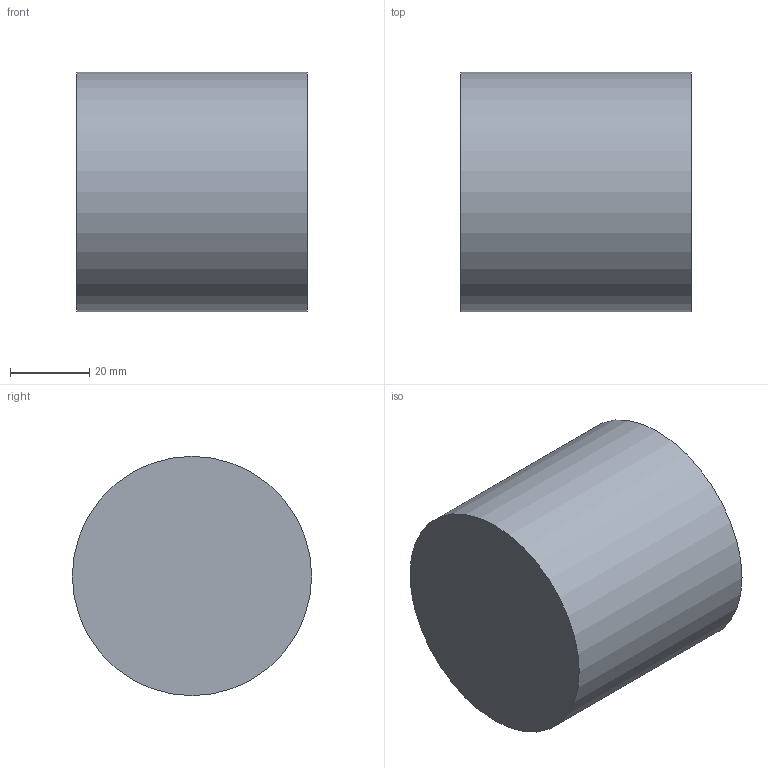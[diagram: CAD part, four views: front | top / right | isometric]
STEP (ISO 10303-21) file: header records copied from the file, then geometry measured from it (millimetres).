
FILE_DESCRIPTION(/* description */ (''),/* implementation_level */ '2;1');
FILE_NAME(/* name */ 'Endkappe 60.3.stp',/* time_stamp */ '2024-03-12T15:55:26+01:00',/* author */ ('peter.csaszar'),/* organization */ (''),/* preprocessor_version */ 'ST-DEVELOPER v20',/* originating_system */ 'Autodesk Inventor 2024',/* authorisation */ '');
FILE_SCHEMA (('AUTOMOTIVE_DESIGN { 1 0 10303 214 3 1 1 }'));
Length unit declared in the file: millimetre
Products named in the file (1): Bauteil1
Bounding box: 58 x 60.3 x 60.3 mm (x, y, z)
Volume: 26224.9 mm3; surface area: 26603.8 mm2
Topology: 1 solids, 1 shells, 5 faces, 6 edges, 4 vertices
Faces by surface type: plane 3, cylinder 2
Full cylindrical faces by diameter (mm): 56.3 x1, 60.3 x1
Entity records: 147 total; most frequent: DIRECTION 22, CARTESIAN_POINT 16, ORIENTED_EDGE 12, AXIS2_PLACEMENT_3D 10, EDGE_LOOP 6, EDGE_CURVE 6, FACE_OUTER_BOUND 5, ADVANCED_FACE 5
